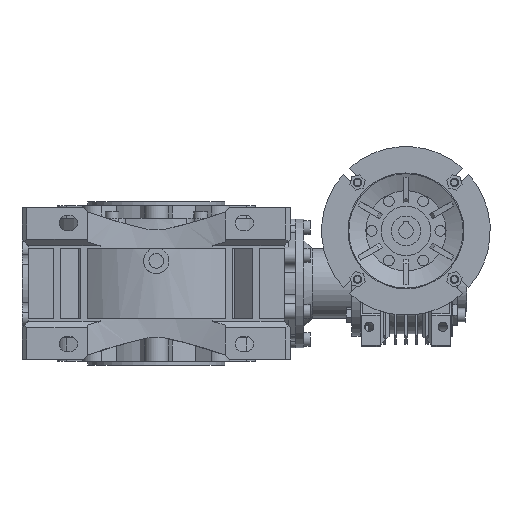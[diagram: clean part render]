
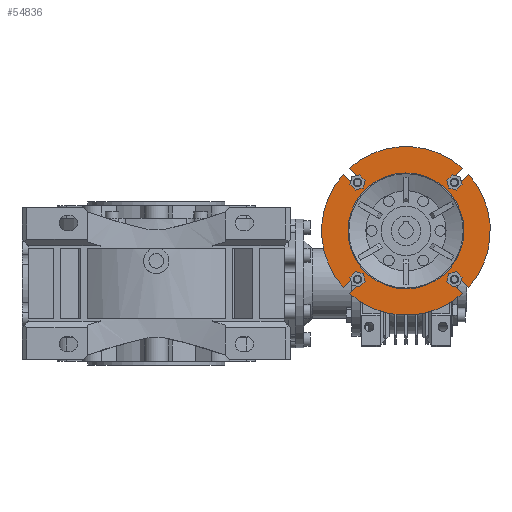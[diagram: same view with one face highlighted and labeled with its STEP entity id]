
A CAD part, front view. The second image highlights one B-rep face of the part: STEP entity #54836.
In plain terms, the highlighted planar face has unit normal (0, -1, 0) as drawn and (1, 0, 0) by its records, which use the part's own axes.
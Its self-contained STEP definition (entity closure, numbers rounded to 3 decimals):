
#1599=PLANE('',#58853);
#3671=CIRCLE('',#58763,80.03);
#3674=CIRCLE('',#58767,80.03);
#3676=CIRCLE('',#58770,80.03);
#3732=CIRCLE('',#58852,80.03);
#3733=CIRCLE('',#58854,55.);
#3734=CIRCLE('',#58855,4.27);
#3735=CIRCLE('',#58856,4.27);
#3736=CIRCLE('',#58857,4.27);
#3737=CIRCLE('',#58858,4.27);
#14449=ORIENTED_EDGE('',*,*,#20502,.F.);
#14450=ORIENTED_EDGE('',*,*,#20503,.F.);
#14451=ORIENTED_EDGE('',*,*,#20504,.T.);
#14452=ORIENTED_EDGE('',*,*,#20316,.T.);
#14453=ORIENTED_EDGE('',*,*,#20505,.T.);
#14454=ORIENTED_EDGE('',*,*,#20506,.F.);
#14455=ORIENTED_EDGE('',*,*,#20507,.T.);
#14456=ORIENTED_EDGE('',*,*,#20326,.T.);
#14457=ORIENTED_EDGE('',*,*,#20508,.T.);
#14458=ORIENTED_EDGE('',*,*,#20509,.F.);
#14459=ORIENTED_EDGE('',*,*,#20510,.T.);
#14460=ORIENTED_EDGE('',*,*,#20322,.T.);
#14461=ORIENTED_EDGE('',*,*,#20511,.T.);
#14462=ORIENTED_EDGE('',*,*,#20512,.F.);
#14463=ORIENTED_EDGE('',*,*,#20513,.T.);
#14464=ORIENTED_EDGE('',*,*,#20500,.T.);
#14465=ORIENTED_EDGE('',*,*,#20514,.T.);
#20316=EDGE_CURVE('',#24313,#24314,#3671,.T.);
#20322=EDGE_CURVE('',#24320,#24319,#3674,.T.);
#20326=EDGE_CURVE('',#24324,#24323,#3676,.T.);
#20500=EDGE_CURVE('',#24465,#24464,#3732,.T.);
#20502=EDGE_CURVE('',#24466,#24466,#3733,.T.);
#20503=EDGE_CURVE('',#24467,#24468,#3734,.F.);
#20504=EDGE_CURVE('',#24467,#24313,#27892,.T.);
#20505=EDGE_CURVE('',#24314,#24469,#27893,.T.);
#20506=EDGE_CURVE('',#24470,#24469,#3735,.F.);
#20507=EDGE_CURVE('',#24470,#24324,#27894,.T.);
#20508=EDGE_CURVE('',#24323,#24471,#27895,.T.);
#20509=EDGE_CURVE('',#24472,#24471,#3736,.F.);
#20510=EDGE_CURVE('',#24472,#24320,#27896,.T.);
#20511=EDGE_CURVE('',#24319,#24473,#27897,.T.);
#20512=EDGE_CURVE('',#24474,#24473,#3737,.F.);
#20513=EDGE_CURVE('',#24474,#24465,#27898,.T.);
#20514=EDGE_CURVE('',#24464,#24468,#27899,.T.);
#24313=VERTEX_POINT('',#82644);
#24314=VERTEX_POINT('',#82645);
#24319=VERTEX_POINT('',#82656);
#24320=VERTEX_POINT('',#82658);
#24323=VERTEX_POINT('',#82665);
#24324=VERTEX_POINT('',#82667);
#24464=VERTEX_POINT('',#83150);
#24465=VERTEX_POINT('',#83152);
#24466=VERTEX_POINT('',#83156);
#24467=VERTEX_POINT('',#83158);
#24468=VERTEX_POINT('',#83159);
#24469=VERTEX_POINT('',#83162);
#24470=VERTEX_POINT('',#83164);
#24471=VERTEX_POINT('',#83167);
#24472=VERTEX_POINT('',#83169);
#24473=VERTEX_POINT('',#83172);
#24474=VERTEX_POINT('',#83174);
#27892=LINE('',#83160,#31342);
#27893=LINE('',#83161,#31343);
#27894=LINE('',#83165,#31344);
#27895=LINE('',#83166,#31345);
#27896=LINE('',#83170,#31346);
#27897=LINE('',#83171,#31347);
#27898=LINE('',#83175,#31348);
#27899=LINE('',#83176,#31349);
#31342=VECTOR('',#69974,1000.);
#31343=VECTOR('',#69975,1000.);
#31344=VECTOR('',#69978,1000.);
#31345=VECTOR('',#69979,1000.);
#31346=VECTOR('',#69982,1000.);
#31347=VECTOR('',#69983,1000.);
#31348=VECTOR('',#69986,1000.);
#31349=VECTOR('',#69987,1000.);
#33983=EDGE_LOOP('',(#14449));
#33984=EDGE_LOOP('',(#14450,#14451,#14452,#14453,#14454,#14455,#14456,#14457,
#14458,#14459,#14460,#14461,#14462,#14463,#14464,#14465));
#36679=FACE_BOUND('',#33983,.T.);
#36680=FACE_BOUND('',#33984,.T.);
#54836=ADVANCED_FACE('',(#36679,#36680),#1599,.F.);
#58763=AXIS2_PLACEMENT_3D('',#82643,#69712,#69713);
#58767=AXIS2_PLACEMENT_3D('',#82657,#69723,#69724);
#58770=AXIS2_PLACEMENT_3D('',#82666,#69731,#69732);
#58852=AXIS2_PLACEMENT_3D('',#83151,#69965,#69966);
#58853=AXIS2_PLACEMENT_3D('',#83154,#69968,#69969);
#58854=AXIS2_PLACEMENT_3D('',#83155,#69970,#69971);
#58855=AXIS2_PLACEMENT_3D('',#83157,#69972,#69973);
#58856=AXIS2_PLACEMENT_3D('',#83163,#69976,#69977);
#58857=AXIS2_PLACEMENT_3D('',#83168,#69980,#69981);
#58858=AXIS2_PLACEMENT_3D('',#83173,#69984,#69985);
#69712=DIRECTION('',(1.,0.,0.));
#69713=DIRECTION('',(0.,0.,-1.));
#69723=DIRECTION('',(1.,0.,0.));
#69724=DIRECTION('',(0.,0.,-1.));
#69731=DIRECTION('',(1.,0.,0.));
#69732=DIRECTION('',(0.,0.,-1.));
#69965=DIRECTION('',(1.,0.,0.));
#69966=DIRECTION('',(0.,0.,-1.));
#69968=DIRECTION('',(-1.,0.,0.));
#69969=DIRECTION('',(0.,0.,1.));
#69970=DIRECTION('',(1.,0.,0.));
#69971=DIRECTION('',(0.,0.,-1.));
#69972=DIRECTION('',(-1.,0.,0.));
#69973=DIRECTION('',(0.,0.,1.));
#69974=DIRECTION('',(0.,0.707,0.707));
#69975=DIRECTION('',(0.,0.707,-0.707));
#69976=DIRECTION('',(-1.,0.,0.));
#69977=DIRECTION('',(0.,0.,1.));
#69978=DIRECTION('',(0.,-0.707,0.707));
#69979=DIRECTION('',(0.,0.707,0.707));
#69980=DIRECTION('',(-1.,0.,0.));
#69981=DIRECTION('',(0.,0.,1.));
#69982=DIRECTION('',(0.,-0.707,-0.707));
#69983=DIRECTION('',(0.,-0.707,0.707));
#69984=DIRECTION('',(-1.,0.,0.));
#69985=DIRECTION('',(0.,0.,1.));
#69986=DIRECTION('',(0.,0.707,-0.707));
#69987=DIRECTION('',(0.,-0.707,-0.707));
#82643=CARTESIAN_POINT('',(26.,0.,0.));
#82644=CARTESIAN_POINT('',(26.,53.49,59.528));
#82645=CARTESIAN_POINT('',(26.,-53.49,59.528));
#82656=CARTESIAN_POINT('',(26.,53.49,-59.528));
#82657=CARTESIAN_POINT('',(26.,0.,0.));
#82658=CARTESIAN_POINT('',(26.,-53.49,-59.528));
#82665=CARTESIAN_POINT('',(26.,-59.528,-53.49));
#82666=CARTESIAN_POINT('',(26.,0.,0.));
#82667=CARTESIAN_POINT('',(26.,-59.528,53.49));
#83150=CARTESIAN_POINT('',(26.,59.528,53.49));
#83151=CARTESIAN_POINT('',(26.,0.,0.));
#83152=CARTESIAN_POINT('',(26.,59.528,-53.49));
#83154=CARTESIAN_POINT('',(26.,80.03,0.));
#83155=CARTESIAN_POINT('',(26.,0.,0.));
#83156=CARTESIAN_POINT('',(26.,0.,-55.));
#83157=CARTESIAN_POINT('',(26.,45.962,45.962));
#83158=CARTESIAN_POINT('',(26.,42.943,48.981));
#83159=CARTESIAN_POINT('',(26.,48.981,42.943));
#83160=CARTESIAN_POINT('',(26.,36.996,43.034));
#83161=CARTESIAN_POINT('',(26.,43.034,-36.996));
#83162=CARTESIAN_POINT('',(26.,-42.943,48.981));
#83163=CARTESIAN_POINT('',(26.,-45.962,45.962));
#83164=CARTESIAN_POINT('',(26.,-48.981,42.943));
#83165=CARTESIAN_POINT('',(26.,36.996,-43.034));
#83166=CARTESIAN_POINT('',(26.,36.996,43.034));
#83167=CARTESIAN_POINT('',(26.,-48.981,-42.943));
#83168=CARTESIAN_POINT('',(26.,-45.962,-45.962));
#83169=CARTESIAN_POINT('',(26.,-42.943,-48.981));
#83170=CARTESIAN_POINT('',(26.,43.034,36.996));
#83171=CARTESIAN_POINT('',(26.,36.996,-43.034));
#83172=CARTESIAN_POINT('',(26.,42.943,-48.981));
#83173=CARTESIAN_POINT('',(26.,45.962,-45.962));
#83174=CARTESIAN_POINT('',(26.,48.981,-42.943));
#83175=CARTESIAN_POINT('',(26.,43.034,-36.996));
#83176=CARTESIAN_POINT('',(26.,43.034,36.996));
